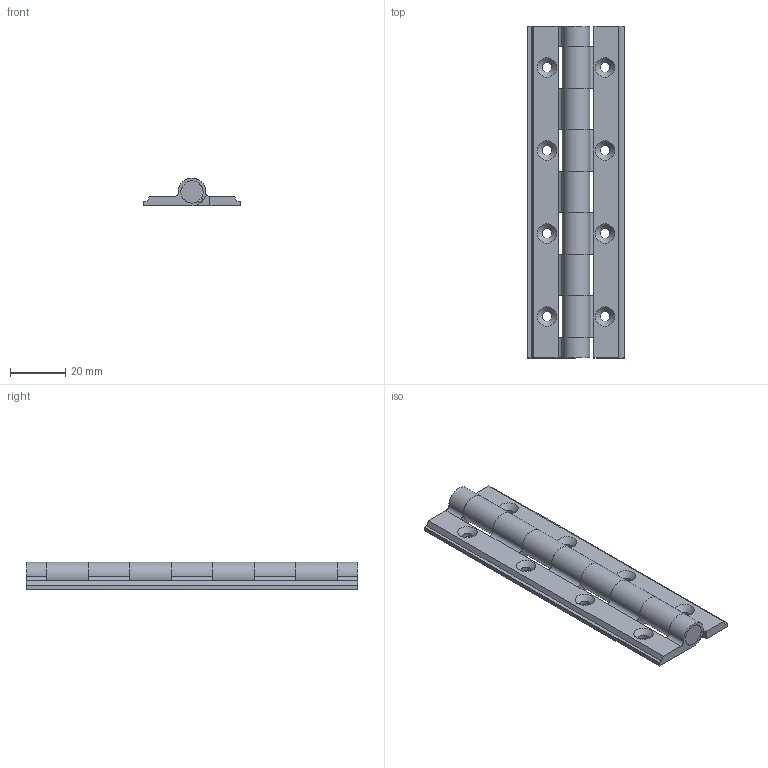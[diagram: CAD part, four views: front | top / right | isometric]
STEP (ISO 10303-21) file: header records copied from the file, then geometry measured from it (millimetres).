
FILE_DESCRIPTION(/* description */ ('Unknown'),/* implementation_level */ '2;1');
FILE_NAME(/* name */ '6898',/* time_stamp */ '2023-10-11T13:55:47+02:00',/* author */ ('Unknown'),/* organization */ ('Unknown'),/* preprocessor_version */ 'ST-DEVELOPER v16.7',/* originating_system */ 'DEX',/* authorisation */ $);
FILE_SCHEMA (('AUTOMOTIVE_DESIGN {1 0 10303 214 3 1 1}'));
Length unit declared in the file: millimetre
Products named in the file (4): 6898; TEIL1; TEIL2; TEIL3
Assembly tree (3 placements, depth 2):
  6898
    TEIL1
    TEIL2
    TEIL3
Bounding box: 35 x 120 x 9.99 mm (x, y, z)
Volume: 18239.7 mm3; surface area: 17334.8 mm2
Topology: 3 solids, 3 shells, 93 faces, 256 edges, 167 vertices
Faces by surface type: plane 42, cylinder 40, cone 8, sphere 3
Full cylindrical faces by diameter (mm): 3.5 x8, 8 x8
Entity records: 2837 total; most frequent: DIRECTION 489, CARTESIAN_POINT 467, ORIENTED_EDGE 420, EDGE_CURVE 210, AXIS2_PLACEMENT_3D 185, EDGE_LOOP 151, FACE_BOUND 151, VERTEX_POINT 149
